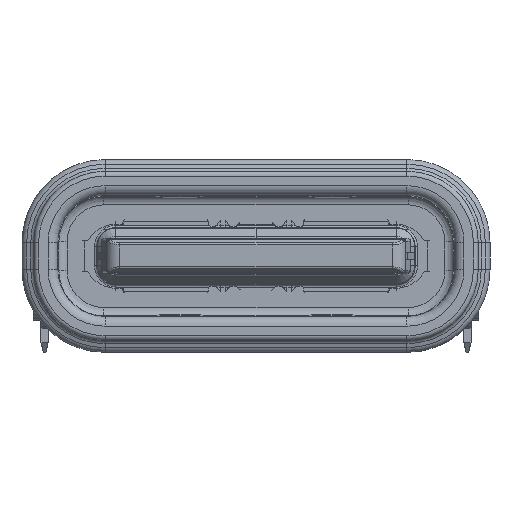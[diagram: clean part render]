
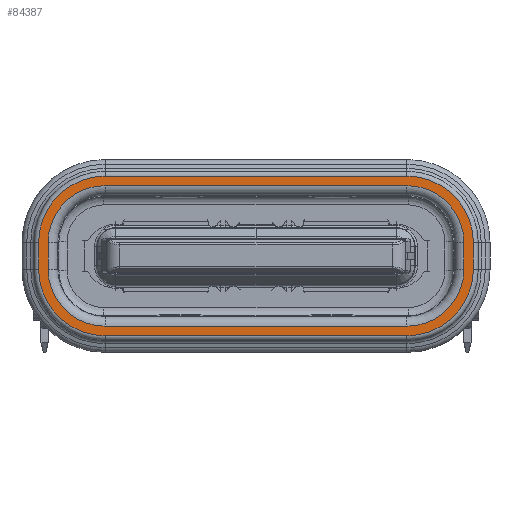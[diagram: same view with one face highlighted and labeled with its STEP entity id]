
A CAD part, top view. The second image highlights one B-rep face of the part: STEP entity #84387.
In plain terms, the highlighted planar face has unit normal (0, 0, 1).
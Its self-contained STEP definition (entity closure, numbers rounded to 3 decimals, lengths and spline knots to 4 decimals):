
#901 = VERTEX_POINT ( 'NONE', #185102 ) ;
#1340 = VECTOR ( 'NONE', #160003, 1000. ) ;
#2159 = DIRECTION ( 'NONE',  ( 0., 0., -1. ) ) ;
#4104 = DIRECTION ( 'NONE',  ( 1., 0., 0. ) ) ;
#7064 = VECTOR ( 'NONE', #20268, 1000. ) ;
#8427 = VECTOR ( 'NONE', #173668, 1000. ) ;
#10982 = CARTESIAN_POINT ( 'NONE',  ( -144.2315, 19.0566, 3.265 ) ) ;
#13518 = LINE ( 'NONE', #130707, #98639 ) ;
#15077 = CIRCLE ( 'NONE', #122433, 1.4 ) ;
#16182 = DIRECTION ( 'NONE',  ( -1., 0., 0. ) ) ;
#17105 = EDGE_CURVE ( 'NONE', #68135, #132251, #144131, .T. ) ;
#19246 = CARTESIAN_POINT ( 'NONE',  ( -144.2315, 17.8566, 3.265 ) ) ;
#20268 = DIRECTION ( 'NONE',  ( 0., 1., 0. ) ) ;
#21762 = CARTESIAN_POINT ( 'NONE',  ( -137.8815, 21.0166, 3.265 ) ) ;
#25089 = DIRECTION ( 'NONE',  ( -1., 0., 0. ) ) ;
#26229 = FACE_BOUND ( 'NONE', #70222, .T. ) ;
#27532 = VECTOR ( 'NONE', #124770, 1000. ) ;
#29063 = CARTESIAN_POINT ( 'NONE',  ( -137.8815, 19.6166, 3.265 ) ) ;
#30464 = VERTEX_POINT ( 'NONE', #188001 ) ;
#31404 = EDGE_CURVE ( 'NONE', #107038, #144048, #112768, .T. ) ;
#31593 = LINE ( 'NONE', #161334, #189075 ) ;
#34794 = CARTESIAN_POINT ( 'NONE',  ( -137.8815, 17.6566, 3.265 ) ) ;
#41179 = ORIENTED_EDGE ( 'NONE', *, *, #186699, .F. ) ;
#42563 = CARTESIAN_POINT ( 'NONE',  ( -137.8815, 20.8166, 3.265 ) ) ;
#45475 = LINE ( 'NONE', #34794, #132333 ) ;
#45593 = EDGE_CURVE ( 'NONE', #146114, #901, #15077, .T. ) ;
#49163 = LINE ( 'NONE', #93305, #7064 ) ;
#50469 = CARTESIAN_POINT ( 'NONE',  ( -145.4315, 19.6166, 3.265 ) ) ;
#50549 = CARTESIAN_POINT ( 'NONE',  ( -137.8815, 17.6566, 3.265 ) ) ;
#50870 = VECTOR ( 'NONE', #16182, 1000. ) ;
#50892 = EDGE_LOOP ( 'NONE', ( #171371, #66722, #175764, #71248, #166301, #117993, #157945, #74983 ) ) ;
#52092 = VERTEX_POINT ( 'NONE', #50469 ) ;
#53729 = LINE ( 'NONE', #134329, #50870 ) ;
#53778 = DIRECTION ( 'NONE',  ( 0., 0., -1. ) ) ;
#54693 = DIRECTION ( 'NONE',  ( 0., 0., 1. ) ) ;
#59445 = CIRCLE ( 'NONE', #108514, 1.4 ) ;
#60764 = CARTESIAN_POINT ( 'NONE',  ( -137.8815, 19.0566, 3.265 ) ) ;
#61721 = DIRECTION ( 'NONE',  ( -1., 0., 0. ) ) ;
#63664 = EDGE_CURVE ( 'NONE', #120687, #86139, #65336, .T. ) ;
#63749 = EDGE_CURVE ( 'NONE', #132251, #52092, #49163, .T. ) ;
#65119 = AXIS2_PLACEMENT_3D ( 'NONE', #87352, #53778, #101798 ) ;
#65336 = CIRCLE ( 'NONE', #163562, 1.2 ) ;
#66722 = ORIENTED_EDGE ( 'NONE', *, *, #84094, .T. ) ;
#67593 = DIRECTION ( 'NONE',  ( 0., 0., 1. ) ) ;
#67691 = EDGE_CURVE ( 'NONE', #144048, #146114, #53729, .T. ) ;
#68117 = DIRECTION ( 'NONE',  ( -1., 0., 0. ) ) ;
#68135 = VERTEX_POINT ( 'NONE', #19246 ) ;
#69140 = DIRECTION ( 'NONE',  ( -1., 0., 0. ) ) ;
#70222 = EDGE_LOOP ( 'NONE', ( #41179, #184256, #77248, #98279, #76697, #81119, #163939, #127923 ) ) ;
#70445 = PLANE ( 'NONE',  #142601 ) ;
#71248 = ORIENTED_EDGE ( 'NONE', *, *, #100331, .T. ) ;
#71497 = DIRECTION ( 'NONE',  ( 0., 0., 1. ) ) ;
#73811 = DIRECTION ( 'NONE',  ( 0., 0., 1. ) ) ;
#74971 = CARTESIAN_POINT ( 'NONE',  ( -136.6815, 19.6166, 3.265 ) ) ;
#74983 = ORIENTED_EDGE ( 'NONE', *, *, #67691, .T. ) ;
#76697 = ORIENTED_EDGE ( 'NONE', *, *, #120691, .T. ) ;
#77248 = ORIENTED_EDGE ( 'NONE', *, *, #117304, .T. ) ;
#80312 = EDGE_CURVE ( 'NONE', #52092, #134213, #147994, .T. ) ;
#80600 = LINE ( 'NONE', #139184, #27532 ) ;
#81119 = ORIENTED_EDGE ( 'NONE', *, *, #17105, .T. ) ;
#84094 = EDGE_CURVE ( 'NONE', #901, #121537, #101417, .T. ) ;
#84387 = ADVANCED_FACE ( 'NONE', ( #186682, #26229 ), #70445, .F. ) ;
#86139 = VERTEX_POINT ( 'NONE', #74971 ) ;
#86996 = CARTESIAN_POINT ( 'NONE',  ( -144.2315, 20.8166, 3.265 ) ) ;
#87352 = CARTESIAN_POINT ( 'NONE',  ( -144.2315, 19.6166, 3.265 ) ) ;
#93305 = CARTESIAN_POINT ( 'NONE',  ( -145.4315, 19.0566, 3.265 ) ) ;
#97381 = CARTESIAN_POINT ( 'NONE',  ( -144.2315, 21.0166, 3.265 ) ) ;
#98050 = CARTESIAN_POINT ( 'NONE',  ( -145.4315, 19.0566, 3.265 ) ) ;
#98279 = ORIENTED_EDGE ( 'NONE', *, *, #146360, .T. ) ;
#98639 = VECTOR ( 'NONE', #25089, 1000. ) ;
#99295 = CARTESIAN_POINT ( 'NONE',  ( -145.6315, 19.0566, 3.265 ) ) ;
#100331 = EDGE_CURVE ( 'NONE', #113882, #108912, #45475, .T. ) ;
#100746 = CARTESIAN_POINT ( 'NONE',  ( -137.8815, 19.6166, 3.265 ) ) ;
#101417 = LINE ( 'NONE', #147487, #1340 ) ;
#101798 = DIRECTION ( 'NONE',  ( -1., 0., 0. ) ) ;
#101905 = EDGE_CURVE ( 'NONE', #121537, #113882, #59445, .T. ) ;
#107038 = VERTEX_POINT ( 'NONE', #148839 ) ;
#108514 = AXIS2_PLACEMENT_3D ( 'NONE', #10982, #71497, #187761 ) ;
#108912 = VERTEX_POINT ( 'NONE', #50549 ) ;
#109724 = CIRCLE ( 'NONE', #134281, 1.4 ) ;
#110450 = CARTESIAN_POINT ( 'NONE',  ( -144.2315, 19.6166, 3.265 ) ) ;
#112768 = CIRCLE ( 'NONE', #161883, 1.4 ) ;
#113384 = DIRECTION ( 'NONE',  ( 0., 0., -1. ) ) ;
#113702 = DIRECTION ( 'NONE',  ( 0., 0., -1. ) ) ;
#113882 = VERTEX_POINT ( 'NONE', #128208 ) ;
#115548 = DIRECTION ( 'NONE',  ( -1., 0., 0. ) ) ;
#117304 = EDGE_CURVE ( 'NONE', #86139, #178977, #31593, .T. ) ;
#117993 = ORIENTED_EDGE ( 'NONE', *, *, #118619, .T. ) ;
#118619 = EDGE_CURVE ( 'NONE', #132472, #107038, #130418, .T. ) ;
#120687 = VERTEX_POINT ( 'NONE', #171845 ) ;
#120691 = EDGE_CURVE ( 'NONE', #30464, #68135, #80600, .T. ) ;
#121537 = VERTEX_POINT ( 'NONE', #99295 ) ;
#122433 = AXIS2_PLACEMENT_3D ( 'NONE', #110450, #54693, #68117 ) ;
#123953 = CARTESIAN_POINT ( 'NONE',  ( -144.2315, 19.0566, 3.265 ) ) ;
#124770 = DIRECTION ( 'NONE',  ( -1., 0., 0. ) ) ;
#127923 = ORIENTED_EDGE ( 'NONE', *, *, #80312, .T. ) ;
#128208 = CARTESIAN_POINT ( 'NONE',  ( -144.2315, 17.6566, 3.265 ) ) ;
#128759 = AXIS2_PLACEMENT_3D ( 'NONE', #123953, #113384, #69140 ) ;
#130418 = LINE ( 'NONE', #156405, #8427 ) ;
#130707 = CARTESIAN_POINT ( 'NONE',  ( -137.8815, 20.8166, 3.265 ) ) ;
#132251 = VERTEX_POINT ( 'NONE', #98050 ) ;
#132333 = VECTOR ( 'NONE', #4104, 1000. ) ;
#132472 = VERTEX_POINT ( 'NONE', #177699 ) ;
#134213 = VERTEX_POINT ( 'NONE', #86996 ) ;
#134281 = AXIS2_PLACEMENT_3D ( 'NONE', #152169, #67593, #167534 ) ;
#134329 = CARTESIAN_POINT ( 'NONE',  ( -137.8815, 21.0166, 3.265 ) ) ;
#139037 = CARTESIAN_POINT ( 'NONE',  ( -136.6815, 19.0566, 3.265 ) ) ;
#139184 = CARTESIAN_POINT ( 'NONE',  ( -137.8815, 17.8566, 3.265 ) ) ;
#140447 = AXIS2_PLACEMENT_3D ( 'NONE', #60764, #2159, #61721 ) ;
#142601 = AXIS2_PLACEMENT_3D ( 'NONE', #42563, #113702, #172293 ) ;
#144048 = VERTEX_POINT ( 'NONE', #21762 ) ;
#144131 = CIRCLE ( 'NONE', #128759, 1.2 ) ;
#144383 = DIRECTION ( 'NONE',  ( 0., 0., -1. ) ) ;
#146114 = VERTEX_POINT ( 'NONE', #97381 ) ;
#146118 = EDGE_CURVE ( 'NONE', #108912, #132472, #109724, .T. ) ;
#146360 = EDGE_CURVE ( 'NONE', #178977, #30464, #152761, .T. ) ;
#147487 = CARTESIAN_POINT ( 'NONE',  ( -145.6315, 19.0566, 3.265 ) ) ;
#147994 = CIRCLE ( 'NONE', #65119, 1.2 ) ;
#148839 = CARTESIAN_POINT ( 'NONE',  ( -136.4815, 19.6166, 3.265 ) ) ;
#152169 = CARTESIAN_POINT ( 'NONE',  ( -137.8815, 19.0566, 3.265 ) ) ;
#152761 = CIRCLE ( 'NONE', #140447, 1.2 ) ;
#156405 = CARTESIAN_POINT ( 'NONE',  ( -136.4815, 19.6166, 3.265 ) ) ;
#157945 = ORIENTED_EDGE ( 'NONE', *, *, #31404, .T. ) ;
#160003 = DIRECTION ( 'NONE',  ( 0., -1., 0. ) ) ;
#161334 = CARTESIAN_POINT ( 'NONE',  ( -136.6815, 19.6166, 3.265 ) ) ;
#161883 = AXIS2_PLACEMENT_3D ( 'NONE', #100746, #73811, #163129 ) ;
#163129 = DIRECTION ( 'NONE',  ( -1., 0., 0. ) ) ;
#163562 = AXIS2_PLACEMENT_3D ( 'NONE', #29063, #144383, #115548 ) ;
#163939 = ORIENTED_EDGE ( 'NONE', *, *, #63749, .T. ) ;
#166301 = ORIENTED_EDGE ( 'NONE', *, *, #146118, .T. ) ;
#167534 = DIRECTION ( 'NONE',  ( -1., 0., 0. ) ) ;
#171371 = ORIENTED_EDGE ( 'NONE', *, *, #45593, .T. ) ;
#171845 = CARTESIAN_POINT ( 'NONE',  ( -137.8815, 20.8166, 3.265 ) ) ;
#172293 = DIRECTION ( 'NONE',  ( 0., -1., 0. ) ) ;
#173668 = DIRECTION ( 'NONE',  ( 0., 1., 0. ) ) ;
#175764 = ORIENTED_EDGE ( 'NONE', *, *, #101905, .T. ) ;
#177699 = CARTESIAN_POINT ( 'NONE',  ( -136.4815, 19.0566, 3.265 ) ) ;
#178977 = VERTEX_POINT ( 'NONE', #139037 ) ;
#179515 = DIRECTION ( 'NONE',  ( 0., -1., 0. ) ) ;
#184256 = ORIENTED_EDGE ( 'NONE', *, *, #63664, .T. ) ;
#185102 = CARTESIAN_POINT ( 'NONE',  ( -145.6315, 19.6166, 3.265 ) ) ;
#186682 = FACE_OUTER_BOUND ( 'NONE', #50892, .T. ) ;
#186699 = EDGE_CURVE ( 'NONE', #120687, #134213, #13518, .T. ) ;
#187761 = DIRECTION ( 'NONE',  ( -1., 0., 0. ) ) ;
#188001 = CARTESIAN_POINT ( 'NONE',  ( -137.8815, 17.8566, 3.265 ) ) ;
#189075 = VECTOR ( 'NONE', #179515, 1000. ) ;
